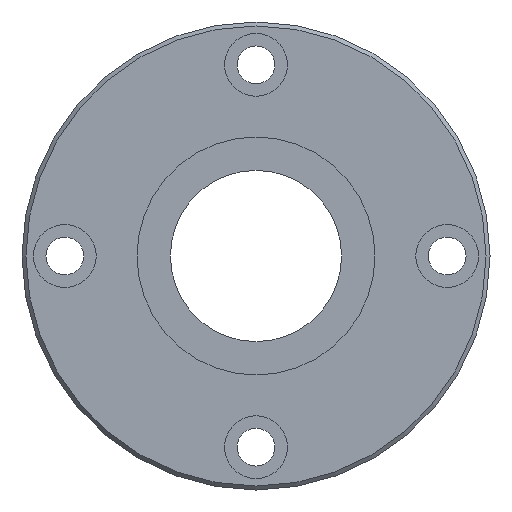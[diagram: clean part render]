
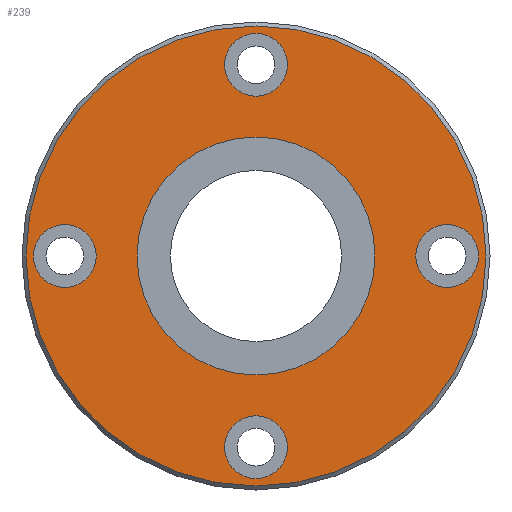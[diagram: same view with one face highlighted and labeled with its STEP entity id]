
A CAD part, left-side view. The second image highlights one B-rep face of the part: STEP entity #239.
In plain terms, the highlighted planar face has unit normal (-1, 0, 0).
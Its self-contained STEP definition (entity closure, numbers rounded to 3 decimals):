
#164=CARTESIAN_POINT('',(0.0,0.,40.3));
#165=VERTEX_POINT('',#164);
#166=CARTESIAN_POINT('',(0.0,0.0,0.0));
#167=DIRECTION('',(1.0,0.0,0.0));
#168=DIRECTION('',(0.0,0.0,-1.0));
#169=AXIS2_PLACEMENT_3D('',#166,#167,#168);
#170=CIRCLE('',#169,40.3);
#171=EDGE_CURVE('',#165,#165,#170,.T.);
#176=CARTESIAN_POINT('',(0.0,0.0,23.425));
#177=DIRECTION('',(-1.0,0.0,0.0));
#178=DIRECTION('',(0.0,0.0,1.0));
#179=AXIS2_PLACEMENT_3D('',#176,#177,#178);
#180=PLANE('',#179);
#181=ORIENTED_EDGE('',*,*,#171,.F.);
#182=EDGE_LOOP('',(#181));
#183=FACE_OUTER_BOUND('',#182,.T.);
#184=CARTESIAN_POINT('',(0.0,0.0,20.85));
#185=VERTEX_POINT('',#184);
#186=CARTESIAN_POINT('',(0.0,0.0,0.0));
#187=DIRECTION('',(-1.0,0.0,0.0));
#188=DIRECTION('',(0.0,0.0,1.0));
#189=AXIS2_PLACEMENT_3D('',#186,#187,#188);
#190=CIRCLE('',#189,20.85);
#191=EDGE_CURVE('',#185,#185,#190,.T.);
#192=ORIENTED_EDGE('',*,*,#191,.F.);
#193=EDGE_LOOP('',(#192));
#194=FACE_BOUND('',#193,.T.);
#195=CARTESIAN_POINT('',(0.0,-28.,0.));
#196=VERTEX_POINT('',#195);
#197=CARTESIAN_POINT('',(0.0,-33.5,0.));
#198=DIRECTION('',(1.0,0.0,0.0));
#199=DIRECTION('',(0.0,1.0,0.0));
#200=AXIS2_PLACEMENT_3D('',#197,#198,#199);
#201=CIRCLE('',#200,5.5);
#202=EDGE_CURVE('',#196,#196,#201,.T.);
#203=ORIENTED_EDGE('',*,*,#202,.T.);
#204=EDGE_LOOP('',(#203));
#205=FACE_BOUND('',#204,.T.);
#206=CARTESIAN_POINT('',(0.0,39.0,0.));
#207=VERTEX_POINT('',#206);
#208=CARTESIAN_POINT('',(0.0,33.5,0.));
#209=DIRECTION('',(1.0,0.0,0.0));
#210=DIRECTION('',(0.0,1.0,0.0));
#211=AXIS2_PLACEMENT_3D('',#208,#209,#210);
#212=CIRCLE('',#211,5.5);
#213=EDGE_CURVE('',#207,#207,#212,.T.);
#214=ORIENTED_EDGE('',*,*,#213,.T.);
#215=EDGE_LOOP('',(#214));
#216=FACE_BOUND('',#215,.T.);
#217=CARTESIAN_POINT('',(0.0,5.5,33.5));
#218=VERTEX_POINT('',#217);
#219=CARTESIAN_POINT('',(0.0,0.,33.5));
#220=DIRECTION('',(1.0,0.0,0.0));
#221=DIRECTION('',(0.0,1.0,0.0));
#222=AXIS2_PLACEMENT_3D('',#219,#220,#221);
#223=CIRCLE('',#222,5.5);
#224=EDGE_CURVE('',#218,#218,#223,.T.);
#225=ORIENTED_EDGE('',*,*,#224,.T.);
#226=EDGE_LOOP('',(#225));
#227=FACE_BOUND('',#226,.T.);
#228=CARTESIAN_POINT('',(0.0,5.5,-33.5));
#229=VERTEX_POINT('',#228);
#230=CARTESIAN_POINT('',(0.0,0.,-33.5));
#231=DIRECTION('',(1.0,0.0,0.0));
#232=DIRECTION('',(0.0,1.0,0.0));
#233=AXIS2_PLACEMENT_3D('',#230,#231,#232);
#234=CIRCLE('',#233,5.5);
#235=EDGE_CURVE('',#229,#229,#234,.T.);
#236=ORIENTED_EDGE('',*,*,#235,.T.);
#237=EDGE_LOOP('',(#236));
#238=FACE_BOUND('',#237,.T.);
#239=ADVANCED_FACE('',(#183,#194,#205,#216,#227,#238),#180,.T.);
